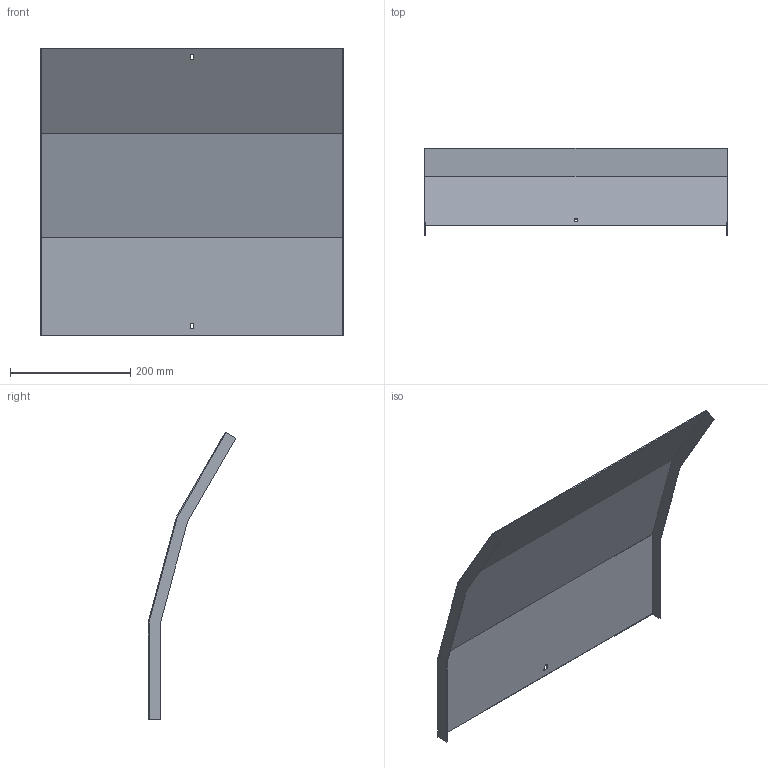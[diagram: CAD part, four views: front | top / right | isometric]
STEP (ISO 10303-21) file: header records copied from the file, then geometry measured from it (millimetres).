
FILE_DESCRIPTION (( 'STEP AP214' ), '1' );
FILE_NAME ('A2_35N3C500.step', '2025-02-21T10:30:18', ( '' ), ( '' ), 'SwSTEP 2.0', 'SolidWorks 2023', '' );
FILE_SCHEMA (( 'AUTOMOTIVE_DESIGN' ));
Length unit declared in the file: millimetre
Products named in the file (1): A2_35N3C500
Bounding box: 503 x 145.29 x 477.6 mm (x, y, z)
Volume: 408693.4 mm3; surface area: 548123.7 mm2
Topology: 1 solids, 1 shells, 26 faces, 72 edges, 48 vertices
Faces by surface type: plane 26
Entity records: 847 total; most frequent: CARTESIAN_POINT 147, ORIENTED_EDGE 144, DIRECTION 126, LINE 72, EDGE_CURVE 72, VECTOR 72, VERTEX_POINT 48, EDGE_LOOP 30
